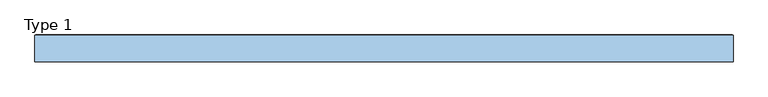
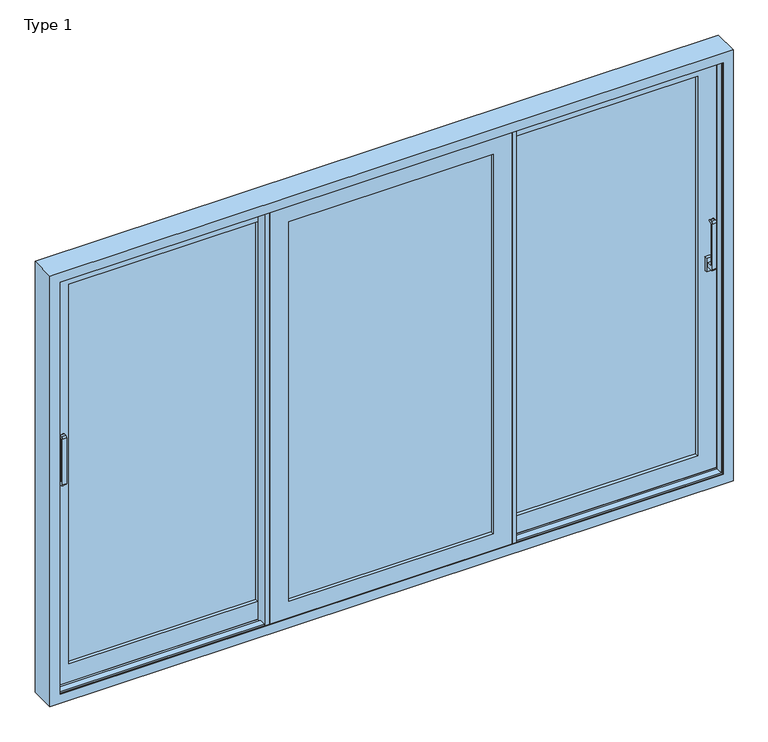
"""IFC4 building model written with IfcOpenShell, lengths in millimetres: window geometry, ETEM_E50_Triple_Lift_Sliding-Fixed-Sliding : Type 1."""

from ifc_helpers import new_model, si_unit, point, frame, frame_2d, origin, place, context, project, spatial, polyline, circle_curve, trimmed, segment, composite_curve, outline, extrude, faceted_brep, source, transform, mapped, element, save


def type_1_f72ec58d(model_context):
    return source(origin(), model_context, "Body", "SolidModel", [
        extrude(outline(composite_curve([segment(polyline([(36.3481944, 1090.0), (4.7745096, 1090.0)]), True, "CONTINUOUS"), segment(trimmed(circle_curve(frame_2d((4.7745096, 1098.4263152)), 8.4263152), [point((4.7745096, 1090.0))], [point((-3.6518056, 1098.4263152))], False, "CARTESIAN"), True, "CONTINUOUS"), segment(polyline([(-3.6518056, 1098.4263152), (-3.6518056, 1331.5736848)]), True, "CONTINUOUS"), segment(trimmed(circle_curve(frame_2d((4.7745096, 1331.5736848)), 8.4263152), [point((-3.6518056, 1331.5736848))], [point((4.7745096, 1340.0))], False, "CARTESIAN"), True, "CONTINUOUS"), segment(polyline([(4.7745096, 1340.0), (16.3481944, 1340.0)]), True, "CONTINUOUS"), segment(trimmed(circle_curve(frame_2d((16.3481944, 1335.0)), 5.0), [point((16.3481944, 1340.0))], [point((16.3481944, 1330.0))], False, "CARTESIAN"), True, "CONTINUOUS"), segment(polyline([(16.3481944, 1330.0), (9.8837283, 1330.0)]), True, "CONTINUOUS"), segment(trimmed(circle_curve(frame_2d((9.8837283, 1326.4644661)), 3.5355339), [point((9.8837283, 1330.0))], [point((6.3481944, 1326.4644661))], True, "CARTESIAN"), True, "CONTINUOUS"), segment(polyline([(6.3481944, 1326.4644661), (6.3481944, 1113.5355339)]), True, "CONTINUOUS"), segment(trimmed(circle_curve(frame_2d((9.8837283, 1113.5355339)), 3.5355339), [point((6.3481944, 1113.5355339))], [point((9.8837283, 1110.0))], True, "CARTESIAN"), True, "CONTINUOUS"), segment(polyline([(9.8837283, 1110.0), (36.3481944, 1110.0), (36.3481944, 1090.0)]), True, "CONTINUOUS")], self_intersect=False)), frame((1559.999965, 0.0, 0.0), z_axis=(1.0, 0.0, 0.0), x_axis=(0.0, 1.0, 0.0)), (0.0, 0.0, 1.0), 20.0),
        extrude(outline(polyline([(1554.999965, 36.3481944), (1554.999965, 49.3481944), (1584.999965, 49.3481944), (1584.999965, 36.3481944), (1554.999965, 36.3481944)])), frame((0.0, 0.0, 1065.0), z_axis=(0.0, 0.0, 1.0), x_axis=(1.0, 0.0, 0.0)), (0.0, 0.0, 1.0), 70.0),
        extrude(outline(composite_curve([segment(polyline([(36.3481944, 1090.0), (4.7745096, 1090.0)]), True, "CONTINUOUS"), segment(trimmed(circle_curve(frame_2d((4.7745096, 1098.4263152)), 8.4263152), [point((4.7745096, 1090.0))], [point((-3.6518056, 1098.4263152))], False, "CARTESIAN"), True, "CONTINUOUS"), segment(polyline([(-3.6518056, 1098.4263152), (-3.6518056, 1331.5736848)]), True, "CONTINUOUS"), segment(trimmed(circle_curve(frame_2d((4.7745096, 1331.5736848)), 8.4263152), [point((-3.6518056, 1331.5736848))], [point((4.7745096, 1340.0))], False, "CARTESIAN"), True, "CONTINUOUS"), segment(polyline([(4.7745096, 1340.0), (16.3481944, 1340.0)]), True, "CONTINUOUS"), segment(trimmed(circle_curve(frame_2d((16.3481944, 1335.0)), 5.0), [point((16.3481944, 1340.0))], [point((16.3481944, 1330.0))], False, "CARTESIAN"), True, "CONTINUOUS"), segment(polyline([(16.3481944, 1330.0), (9.8837283, 1330.0)]), True, "CONTINUOUS"), segment(trimmed(circle_curve(frame_2d((9.8837283, 1326.4644661)), 3.5355339), [point((9.8837283, 1330.0))], [point((6.3481944, 1326.4644661))], True, "CARTESIAN"), True, "CONTINUOUS"), segment(polyline([(6.3481944, 1326.4644661), (6.3481944, 1113.5355339)]), True, "CONTINUOUS"), segment(trimmed(circle_curve(frame_2d((9.8837283, 1113.5355339)), 3.5355339), [point((6.3481944, 1113.5355339))], [point((9.8837283, 1110.0))], True, "CARTESIAN"), True, "CONTINUOUS"), segment(polyline([(9.8837283, 1110.0), (36.3481944, 1110.0), (36.3481944, 1090.0)]), True, "CONTINUOUS")], self_intersect=False)), frame((-1579.999965, 0.0, 0.0), z_axis=(1.0, 0.0, 0.0), x_axis=(0.0, 1.0, 0.0)), (0.0, 0.0, 1.0), 20.0),
        extrude(outline(polyline([(-1584.999965, 36.3481944), (-1584.999965, 49.3481944), (-1554.999965, 49.3481944), (-1554.999965, 36.3481944), (-1584.999965, 36.3481944)])), frame((0.0, 0.0, 1065.0), z_axis=(0.0, 0.0, 1.0), x_axis=(1.0, 0.0, 0.0)), (0.0, 0.0, 1.0), 70.0),
        faceted_brep([(514.5, 94.6481944, 2160.5), (514.5, 99.3481944, 2160.5), (514.5, 99.3481944, 39.5000339), (514.5, 94.6481944, 39.5000339), (1610.499965, 99.3481944, 2160.5), (1610.499965, 99.3481944, 39.5000339), (606.0, 99.3481944, 131.0000339), (1518.999965, 99.3481944, 131.0000339), (1518.999965, 99.3481944, 2069.0), (606.0, 99.3481944, 2069.0), (1610.499965, 94.6481944, 39.5000339), (1610.499965, 94.6481944, 2160.5), (543.7, 94.6481944, 2131.3), (1581.299965, 94.6481944, 2131.3), (1581.299965, 94.6481944, 68.7000339), (543.7, 94.6481944, 68.7000339), (543.7, 54.0481944, 2131.3), (543.7, 54.0481944, 68.7000339), (1581.299965, 54.0481944, 68.7000339), (514.5, 54.0481944, 2160.5), (1610.499965, 54.0481944, 2160.5), (1610.499965, 54.0481944, 39.5000339), (514.5, 54.0481944, 39.5000339), (1581.299965, 54.0481944, 2131.3), (514.5, 49.3481944, 2160.5), (514.5, 49.3481944, 39.5000339), (1610.499965, 49.3481944, 39.5000339), (1610.499965, 49.3481944, 2160.5), (606.0, 49.3481944, 2069.0), (1518.999965, 49.3481944, 2069.0), (1518.999965, 49.3481944, 131.0000339), (606.0, 49.3481944, 131.0000339)], [[[0, 1, 2, 3]], [[1, 4, 5, 2], [6, 7, 8, 9]], [[3, 2, 5, 10]], [[3, 10, 11, 0], [12, 13, 14, 15]], [[16, 12, 15, 17]], [[17, 15, 14, 18]], [[19, 20, 21, 22], [17, 18, 23, 16]], [[24, 19, 22, 25]], [[25, 22, 21, 26]], [[25, 26, 27, 24], [28, 29, 30, 31]], [[9, 28, 31, 6]], [[6, 31, 30, 7]], [[10, 5, 4, 11]], [[18, 14, 13, 23]], [[26, 21, 20, 27]], [[7, 30, 29, 8]], [[11, 4, 1, 0]], [[23, 13, 12, 16]], [[27, 20, 19, 24]], [[8, 29, 28, 9]]]),
        extrude(outline(polyline([(606.0, -15.6518056), (585.5, -15.6518056), (585.5, 45.3481944), (606.0, 45.3481944), (606.0, -15.6518056)])), frame((0.0, 0.0, 39.5000339), z_axis=(0.0, 0.0, 1.0), x_axis=(1.0, 0.0, 0.0)), (0.0, 0.0, 1.0), 2120.9999661),
        extrude(outline(polyline([(494.0, 99.3481944), (514.5, 99.3481944), (514.5, 38.3481944), (494.0, 38.3481944), (494.0, 99.3481944)])), frame((0.0, 0.0, 39.5000339), z_axis=(0.0, 0.0, 1.0), x_axis=(1.0, 0.0, 0.0)), (0.0, 0.0, 1.0), 2120.9999661),
        extrude(outline(polyline([(606.0, 91.3481944), (1518.999965, 91.3481944), (1518.999965, 86.3481944), (606.0, 86.3481944), (606.0, 91.3481944)])), frame((0.0, 0.0, 131.0000339), z_axis=(0.0, 0.0, 1.0), x_axis=(1.0, 0.0, 0.0)), (0.0, 0.0, 1.0), 1937.9999661),
        extrude(outline(polyline([(606.0, 70.3481944), (1518.999965, 70.3481944), (1518.999965, 65.3481944), (606.0, 65.3481944), (606.0, 70.3481944)])), frame((0.0, 0.0, 131.0000339), z_axis=(0.0, 0.0, 1.0), x_axis=(1.0, 0.0, 0.0)), (0.0, 0.0, 1.0), 1937.9999661),
        faceted_brep([(-606.0, 49.3481944, 2069.0), (-606.0, 99.3481944, 2069.0), (-606.0, 99.3481944, 131.0000339), (-606.0, 49.3481944, 131.0000339), (-1518.999965, 99.3481944, 131.0000339), (-1518.999965, 49.3481944, 131.0000339), (-1610.499965, 99.3481944, 39.5000339), (-1610.499965, 99.3481944, 2160.5), (-514.5, 99.3481944, 2160.5), (-514.5, 99.3481944, 39.5000339), (-1518.999965, 99.3481944, 2069.0), (-1518.999965, 49.3481944, 2069.0), (-514.5, 49.3481944, 39.5000339), (-514.5, 49.3481944, 2160.5), (-1610.499965, 49.3481944, 2160.5), (-1610.499965, 49.3481944, 39.5000339), (-514.5, 54.0481944, 2160.5), (-514.5, 54.0481944, 39.5000339), (-1610.499965, 54.0481944, 39.5000339), (-1610.499965, 54.0481944, 2160.5), (-543.7, 54.0481944, 68.7000339), (-543.7, 54.0481944, 2131.3), (-1581.299965, 54.0481944, 2131.3), (-1581.299965, 54.0481944, 68.7000339), (-543.7, 94.6481944, 2131.3), (-543.7, 94.6481944, 68.7000339), (-1581.299965, 94.6481944, 68.7000339), (-1581.299965, 94.6481944, 2131.3), (-514.5, 94.6481944, 39.5000339), (-514.5, 94.6481944, 2160.5), (-1610.499965, 94.6481944, 2160.5), (-1610.499965, 94.6481944, 39.5000339)], [[[0, 1, 2, 3]], [[3, 2, 4, 5]], [[6, 7, 8, 9], [2, 1, 10, 4]], [[5, 4, 10, 11]], [[12, 13, 14, 15], [5, 11, 0, 3]], [[16, 13, 12, 17]], [[17, 12, 15, 18]], [[18, 15, 14, 19]], [[18, 19, 16, 17], [20, 21, 22, 23]], [[24, 21, 20, 25]], [[25, 20, 23, 26]], [[26, 23, 22, 27]], [[28, 29, 30, 31], [26, 27, 24, 25]], [[8, 29, 28, 9]], [[9, 28, 31, 6]], [[6, 31, 30, 7]], [[11, 10, 1, 0]], [[19, 14, 13, 16]], [[27, 22, 21, 24]], [[7, 30, 29, 8]]]),
        extrude(outline(polyline([(-494.0, 26.3481944), (494.0, 26.3481944), (494.0, 21.3481944), (-494.0, 21.3481944), (-494.0, 26.3481944)])), frame((0.0, 0.0, 131.0000339), z_axis=(0.0, 0.0, 1.0), x_axis=(1.0, 0.0, 0.0)), (0.0, 0.0, 1.0), 1937.9999661),
        extrude(outline(polyline([(-494.0, 5.3481944), (494.0, 5.3481944), (494.0, 0.3481944), (-494.0, 0.3481944), (-494.0, 5.3481944)])), frame((0.0, 0.0, 131.0000339), z_axis=(0.0, 0.0, 1.0), x_axis=(1.0, 0.0, 0.0)), (0.0, 0.0, 1.0), 1937.9999661),
        faceted_brep([(494.0, -15.6518056, 2069.0), (494.0, 34.3481944, 2069.0), (494.0, 34.3481944, 131.0000339), (494.0, -15.6518056, 131.0000339), (-494.0, 34.3481944, 131.0000339), (-494.0, -15.6518056, 131.0000339), (-585.5, 34.3481944, 39.5000339), (-585.5, 34.3481944, 2160.5), (585.5, 34.3481944, 2160.5), (585.5, 34.3481944, 39.5000339), (-494.0, 34.3481944, 2069.0), (-494.0, -15.6518056, 2069.0), (585.5, -15.6518056, 39.5000339), (585.5, -15.6518056, 2160.5), (-585.5, -15.6518056, 2160.5), (-585.5, -15.6518056, 39.5000339), (585.5, -10.9518056, 2160.5), (585.5, -10.9518056, 39.5000339), (-585.5, -10.9518056, 39.5000339), (-585.5, -10.9518056, 2160.5), (556.3, -10.9518056, 68.7000339), (556.3, -10.9518056, 2131.3), (-556.3, -10.9518056, 2131.3), (-556.3, -10.9518056, 68.7000339), (556.3, 29.6481944, 2131.3), (556.3, 29.6481944, 68.7000339), (-556.3, 29.6481944, 68.7000339), (-556.3, 29.6481944, 2131.3), (585.5, 29.6481944, 39.5000339), (585.5, 29.6481944, 2160.5), (-585.5, 29.6481944, 2160.5), (-585.5, 29.6481944, 39.5000339)], [[[0, 1, 2, 3]], [[3, 2, 4, 5]], [[6, 7, 8, 9], [2, 1, 10, 4]], [[5, 4, 10, 11]], [[12, 13, 14, 15], [5, 11, 0, 3]], [[16, 13, 12, 17]], [[17, 12, 15, 18]], [[18, 15, 14, 19]], [[18, 19, 16, 17], [20, 21, 22, 23]], [[24, 21, 20, 25]], [[25, 20, 23, 26]], [[26, 23, 22, 27]], [[28, 29, 30, 31], [26, 27, 24, 25]], [[8, 29, 28, 9]], [[9, 28, 31, 6]], [[6, 31, 30, 7]], [[11, 10, 1, 0]], [[19, 14, 13, 16]], [[27, 22, 21, 24]], [[7, 30, 29, 8]]]),
        faceted_brep([(1601.5, 101.4, 2151.5), (1601.5, 105.0, 2151.5), (1601.5, 105.0, 0.0), (1601.5, 103.5481944, 0.0), (1601.5, 103.5481944, 19.8), (1601.5, 101.4, 19.8), (-1601.5, 105.0, 0.0), (-1646.5, 105.0, 0.0), (-1646.5, 105.0, 2196.5), (1646.5, 105.0, 2196.5), (1646.5, 105.0, 0.0), (-1601.5, 105.0, 2151.5), (1650.0, 103.5481944, 0.0), (1650.0, -21.2518056, 0.0), (-1650.0, -21.2518056, 0.0), (-1650.0, 103.5481944, 0.0), (-1646.5, 103.5481944, 0.0), (-1601.5, 103.5481944, 0.0), (1646.5, 103.5481944, 0.0), (-1601.5, 103.5481944, 19.8), (1650.0, 103.5481944, 2200.0), (1646.5, 103.5481944, 2196.5), (-1646.5, 103.5481944, 2196.5), (-1650.0, 103.5481944, 2200.0), (1628.2, 78.8481944, 21.8), (1628.2, 92.0481944, 21.8), (-1628.2, 92.0481944, 21.8), (-1628.2, 78.8481944, 21.8), (-1601.5, 101.4, 2151.5), (1628.2, 101.4, 19.8), (1628.2, 101.4, 2178.2), (-1628.2, 101.4, 2178.2), (-1628.2, 101.4, 19.8), (-1601.5, 101.4, 19.8), (-1650.0, -21.2518056, 2200.0), (1650.0, -21.2518056, 2200.0), (1628.2, 92.0481944, 19.8), (1628.2, 78.8481944, 2178.2), (-1628.2, 92.0481944, 19.8), (-1628.2, 78.8481944, 2178.2), (1601.5, -21.2518056, 2151.5), (1601.5, -21.2518056, 48.5), (-1601.5, -21.2518056, 48.5), (-1601.5, -21.2518056, 2151.5), (1609.5, 78.8481944, 40.5), (1609.5, 78.8481944, 2159.5), (-1609.5, 78.8481944, 2159.5), (-1609.5, 78.8481944, 40.5), (1609.5, 90.3481944, 2159.5), (1609.5, 90.3481944, 40.5), (-1609.5, 90.3481944, 40.5), (-1609.5, 90.3481944, 2159.5), (1601.5, 90.3481944, 48.5), (1601.5, 90.3481944, 2151.5), (-1601.5, 90.3481944, 2151.5), (-1601.5, 90.3481944, 48.5), (1601.5, 58.3481944, 2151.5), (1601.5, 58.3481944, 48.5), (-1601.5, 58.3481944, 48.5), (1609.5, 58.3481944, 40.5), (1609.5, 58.3481944, 2159.5), (-1609.5, 58.3481944, 2159.5), (-1609.5, 58.3481944, 40.5), (-1601.5, 58.3481944, 2151.5), (1609.5, 69.8481944, 2159.5), (1609.5, 69.8481944, 40.5), (-1609.5, 69.8481944, 40.5), (1628.2, 69.8481944, 21.8), (1628.2, 69.8481944, 2178.2), (-1628.2, 69.8481944, 2178.2), (-1628.2, 69.8481944, 21.8), (-1609.5, 69.8481944, 2159.5), (1628.2, 13.8481944, 2178.2), (1628.2, 13.8481944, 21.8), (-1628.2, 13.8481944, 21.8), (-1628.2, 13.8481944, 2178.2), (1609.5, 13.8481944, 40.5), (1609.5, 13.8481944, 2159.5), (-1609.5, 13.8481944, 2159.5), (-1609.5, 13.8481944, 40.5), (1609.5, 25.3481944, 2159.5), (1609.5, 25.3481944, 40.5), (-1609.5, 25.3481944, 40.5), (-1609.5, 25.3481944, 2159.5), (1601.5, 25.3481944, 48.5), (1601.5, 25.3481944, 2151.5), (-1601.5, 25.3481944, 2151.5), (-1601.5, 25.3481944, 48.5), (1601.5, -6.6518056, 2151.5), (1601.5, -6.6518056, 48.5), (-1601.5, -6.6518056, 48.5), (1609.5, -6.6518056, 40.5), (1609.5, -6.6518056, 2159.5), (-1609.5, -6.6518056, 2159.5), (-1609.5, -6.6518056, 40.5), (-1601.5, -6.6518056, 2151.5), (1609.5, 4.8481944, 2159.5), (1609.5, 4.8481944, 40.5), (-1609.5, 4.8481944, 40.5), (1628.2, 4.8481944, 21.8), (1628.2, 4.8481944, 2178.2), (-1628.2, 4.8481944, 2178.2), (-1628.2, 4.8481944, 21.8), (-1609.5, 4.8481944, 2159.5), (1628.2, -17.6518056, 2178.2), (1628.2, -17.6518056, 21.8), (-1628.2, -17.6518056, 21.8), (-1628.2, -17.6518056, 2178.2), (1601.5, -17.6518056, 48.5), (1601.5, -17.6518056, 2151.5), (-1601.5, -17.6518056, 2151.5), (-1601.5, -17.6518056, 48.5)], [[[0, 1, 2, 3, 4, 5]], [[6, 7, 8, 9, 10, 2, 1, 11]], [[12, 13, 14, 15, 16, 7, 6, 17, 3, 2, 10, 18]], [[3, 17, 19, 4]], [[20, 12, 18, 21, 22, 16, 15, 23]], [[24, 25, 26, 27]], [[28, 0, 5, 29, 30, 31, 32, 33]], [[15, 14, 34, 23]], [[20, 35, 13, 12]], [[6, 11, 28, 33, 19, 17]], [[30, 29, 36, 25, 24, 37]], [[27, 26, 38, 32, 31, 39]], [[13, 35, 34, 14], [40, 41, 42, 43]], [[37, 24, 27, 39], [44, 45, 46, 47]], [[48, 45, 44, 49]], [[49, 44, 47, 50]], [[48, 49, 50, 51], [52, 53, 54, 55]], [[56, 53, 52, 57]], [[57, 52, 55, 58]], [[59, 60, 61, 62], [56, 57, 58, 63]], [[64, 60, 59, 65]], [[65, 59, 62, 66]], [[67, 68, 69, 70], [64, 65, 66, 71]], [[72, 68, 67, 73]], [[73, 67, 70, 74]], [[72, 73, 74, 75], [76, 77, 78, 79]], [[80, 77, 76, 81]], [[81, 76, 79, 82]], [[80, 81, 82, 83], [84, 85, 86, 87]], [[88, 85, 84, 89]], [[89, 84, 87, 90]], [[91, 92, 93, 94], [88, 89, 90, 95]], [[96, 92, 91, 97]], [[97, 91, 94, 98]], [[99, 100, 101, 102], [96, 97, 98, 103]], [[104, 100, 99, 105]], [[105, 99, 102, 106]], [[104, 105, 106, 107], [108, 109, 110, 111]], [[40, 109, 108, 41]], [[41, 108, 111, 42]], [[50, 47, 46, 51]], [[58, 55, 54, 63]], [[66, 62, 61, 71]], [[74, 70, 69, 75]], [[82, 79, 78, 83]], [[90, 87, 86, 95]], [[98, 94, 93, 103]], [[106, 102, 101, 107]], [[42, 111, 110, 43]], [[1, 0, 28, 11]], [[35, 20, 23, 34]], [[30, 37, 39, 31]], [[45, 48, 51, 46]], [[53, 56, 63, 54]], [[60, 64, 71, 61]], [[68, 72, 75, 69]], [[77, 80, 83, 78]], [[85, 88, 95, 86]], [[92, 96, 103, 93]], [[100, 104, 107, 101]], [[109, 40, 43, 110]], [[18, 10, 9, 21]], [[4, 19, 33, 32, 38, 36, 29, 5]], [[7, 16, 22, 8]], [[26, 25, 36, 38]], [[21, 9, 8, 22]]]),
        extrude(outline(polyline([(-1518.999965, 91.3481944), (-606.0, 91.3481944), (-606.0, 86.3481944), (-1518.999965, 86.3481944), (-1518.999965, 91.3481944)])), frame((0.0, 0.0, 131.0000339), z_axis=(0.0, 0.0, 1.0), x_axis=(1.0, 0.0, 0.0)), (0.0, 0.0, 1.0), 1937.9999661),
        extrude(outline(polyline([(-1518.999965, 70.3481944), (-606.0, 70.3481944), (-606.0, 65.3481944), (-1518.999965, 65.3481944), (-1518.999965, 70.3481944)])), frame((0.0, 0.0, 131.0000339), z_axis=(0.0, 0.0, 1.0), x_axis=(1.0, 0.0, 0.0)), (0.0, 0.0, 1.0), 1937.9999661),
        extrude(outline(polyline([(-585.5, -15.6518056), (-606.0, -15.6518056), (-606.0, 45.3481944), (-585.5, 45.3481944), (-585.5, -15.6518056)])), frame((0.0, 0.0, 39.5000339), z_axis=(0.0, 0.0, 1.0), x_axis=(1.0, 0.0, 0.0)), (0.0, 0.0, 1.0), 2120.9999661),
        extrude(outline(polyline([(-494.0, 99.3481944), (-494.0, 38.3481944), (-514.5, 38.3481944), (-514.5, 99.3481944), (-494.0, 99.3481944)])), frame((0.0, 0.0, 39.5000339), z_axis=(0.0, 0.0, 1.0), x_axis=(1.0, 0.0, 0.0)), (0.0, 0.0, 1.0), 2120.9999661),
    ])


if __name__ == "__main__":
    model = new_model("IFC4")
    model_context = context("Model", 3, world=origin())
    ifc_project = project(units=[si_unit("LENGTHUNIT", "METRE", prefix="MILLI")], contexts=[model_context])
    site = spatial("IfcSite", under=ifc_project)
    building = spatial("IfcBuilding", under=site)
    placement = place(None, origin())
    type_1_shape = type_1_f72ec58d(model_context)
    element("IfcWindow", 1, ObjectType="ETEM_E50_Triple_Lift_Sliding-Fixed-Sliding : Type 1", at=placement, inside=building, context=model_context, shape_type="MappedRepresentation", body=[
        mapped(type_1_shape, transform((0.0, 0.0, 0.0), x_axis=(1.0, 0.0, 0.0), y_axis=(0.0, 1.0, 0.0), z_axis=(0.0, 0.0, 1.0))),
    ])
    save(model, "model.ifc")
